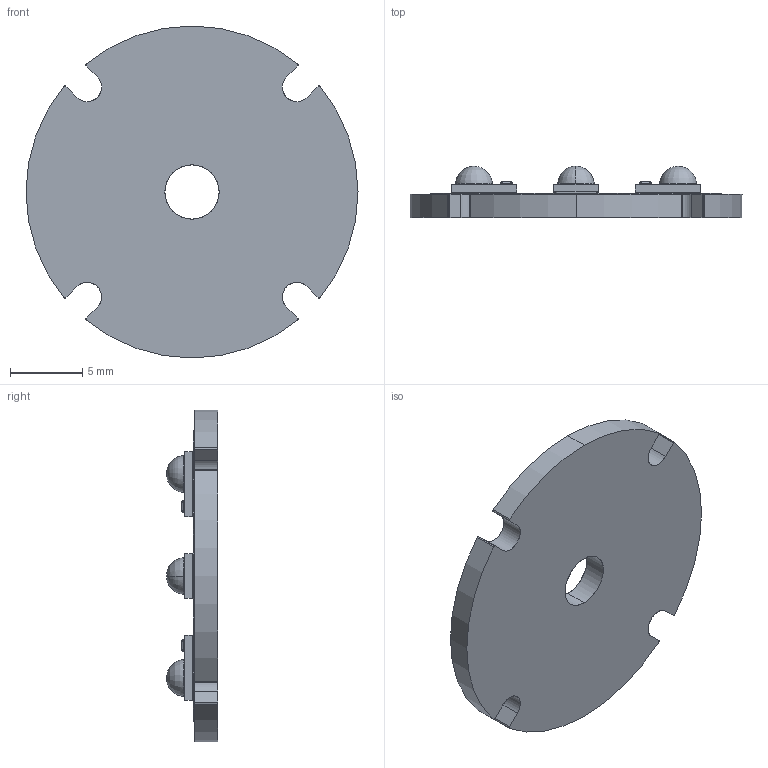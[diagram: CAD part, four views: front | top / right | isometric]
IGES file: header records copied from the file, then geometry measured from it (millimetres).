
Start section: SolidWorks IGES file using analytic representation for surfaces
Global section: file name: E:\Fast Tracks\Non-Production\Quadica\SP Assemblies\SP-08\SP-08.IGS; native system: SolidWorks 2014; preprocessor: SolidWorks 2014; author: MainServer; date: 140729.122534; units: inch
Bounding box: 23 x 3.55 x 23 mm (x, y, z)
Surface area: 1119.8 mm2 (no closed solid volume)
Topology: 0 solids, 0 shells, 1137 faces, 9266 edges, 9250 vertices
Faces by surface type: bspline 818, revolution 319
